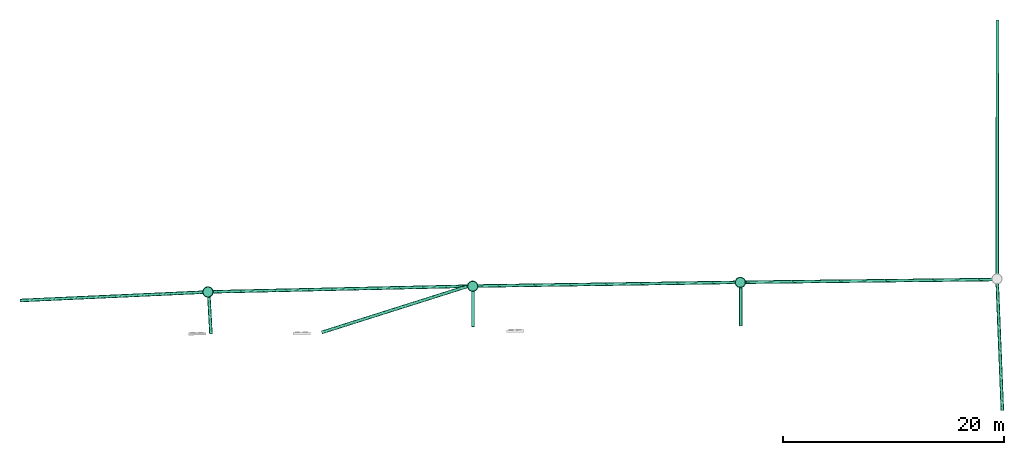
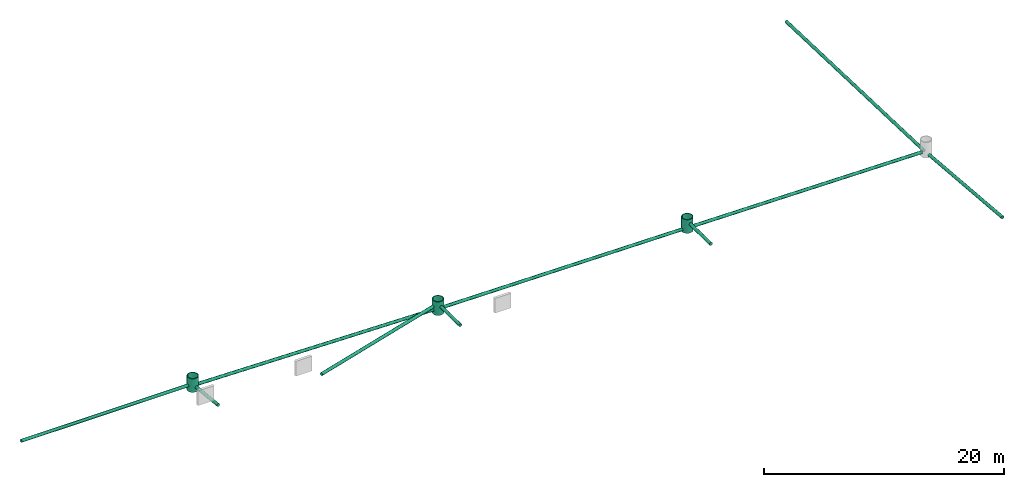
# One storey, part 2 of 3: 13 pipe segments.
"""IFC4 building model written with IfcOpenShell, lengths in metres."""

from ifc_helpers import new_model, entity, si_unit, converted_unit, derived_unit, direction, frame, origin_with_axes, origin_2d_with_axis, place, context, subcontext, project, spatial, circle, extrude, polygons, source, transform, mapped, material, type_object, element, save


model = new_model("IFC4")

# Units and contexts
model_context = context("Model", 3, precision=1e-05, world=origin_with_axes(), true_north=direction((0.0, 1.0)))
body_context = subcontext(model_context, "Body", "Model", "MODEL_VIEW")
ifc_project = project(units=[si_unit("LENGTHUNIT", "METRE"), si_unit("AREAUNIT", "SQUARE_METRE"), si_unit("VOLUMEUNIT", "CUBIC_METRE"), converted_unit("PLANEANGLEUNIT", "DEGREE", entity("IfcPlaneAngleMeasure", 0.0174532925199), si_unit("PLANEANGLEUNIT", "RADIAN"), dimensions=[0, 0, 0, 0, 0, 0, 0]), si_unit("SOLIDANGLEUNIT", "STERADIAN"), converted_unit("TIMEUNIT", "Year", entity("IfcTimeMeasure", 31556926.0), si_unit("TIMEUNIT", "SECOND"), dimensions=[0, 0, 1, 0, 0, 0, 0]), si_unit("MASSUNIT", "GRAM", prefix="KILO"), si_unit("THERMODYNAMICTEMPERATUREUNIT", "DEGREE_CELSIUS"), si_unit("LUMINOUSINTENSITYUNIT", "LUMEN"), si_unit("ENERGYUNIT", "JOULE", prefix="MEGA"), derived_unit("THERMALCONDUCTANCEUNIT", [(si_unit("POWERUNIT", "WATT"), 1), (si_unit("LENGTHUNIT", "METRE"), -1), (si_unit("THERMODYNAMICTEMPERATUREUNIT", "KELVIN"), -1)]), derived_unit("SPECIFICHEATCAPACITYUNIT", [(si_unit("ENERGYUNIT", "JOULE"), 1), (si_unit("MASSUNIT", "GRAM", prefix="KILO"), -1), (si_unit("THERMODYNAMICTEMPERATUREUNIT", "KELVIN"), -1)]), derived_unit("MASSDENSITYUNIT", [(si_unit("MASSUNIT", "GRAM", prefix="KILO"), 1), (si_unit("VOLUMEUNIT", "CUBIC_METRE"), -1)])], contexts=[model_context])

# Site, building, storey
site_placement = place(None, origin_with_axes())
site = spatial("IfcSite", under=ifc_project, at=site_placement, Name="Site", CompositionType="ELEMENT")
building_placement = place(site_placement, origin_with_axes())
building = spatial("IfcBuilding", under=site, at=building_placement, Name="Bâtiment", CompositionType="ELEMENT")
storey_placement = place(building_placement, origin_with_axes())
storey = spatial("IfcBuildingStorey", under=building, at=storey_placement, Name="0. Etage", CompositionType="ELEMENT", Elevation=0.0)

# Pipe segments
ifc_material_1 = material(Name="Volume - Etude")
pipe_segment_type_1 = type_object("IfcPipeSegmentType", Name="Volume - Etude", PredefinedType="NOTDEFINED")
shared_shape = source(origin_with_axes(), body_context, "Body", "Tessellation", [
    polygons([(-0.826759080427, 0.0, -0.321087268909), (-0.876701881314, 0.0, -0.249761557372), (-0.876701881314, 1.37993546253, -0.249761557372), (-0.826759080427, 1.37993546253, -0.321087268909), (-0.913500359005, 0.0, -0.170846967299), (-0.765189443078, 0.0, -0.382656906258), (-0.69386373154, 0.0, -0.432599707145), (-0.614949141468, 0.0, -0.469398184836), (-0.530843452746, 0.0, -0.491934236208), (-0.444102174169, 0.0, -0.499523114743), (-0.357360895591, 0.0, -0.491934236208), (-0.27325520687, 0.0, -0.469398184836), (-0.194340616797, 0.0, -0.432599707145), (-0.12301490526, 0.0, -0.382656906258), (-0.0614452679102, 0.0, -0.321087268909), (-0.0115024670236, 0.0, -0.249761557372), (0.0252960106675, 0.0, -0.170846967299), (0.0478320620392, 0.0, -0.0867412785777), (0.0554209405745, 0.0, 0.0), (0.0478320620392, 0.0, 0.0867412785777), (0.0252960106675, 0.0, 0.170846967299), (-0.0115024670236, 0.0, 0.249761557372), (-0.0614452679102, 0.0, 0.321087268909), (-0.12301490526, 0.0, 0.382656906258), (-0.194340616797, 0.0, 0.432599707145), (-0.27325520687, 0.0, 0.469398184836), (-0.357360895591, 0.0, 0.491934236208), (-0.444102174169, 0.0, 0.499523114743), (-0.530843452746, 0.0, 0.491934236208), (-0.614949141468, 0.0, 0.469398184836), (-0.69386373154, 0.0, 0.432599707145), (-0.765189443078, 0.0, 0.382656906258), (-0.826759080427, 0.0, 0.321087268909), (-0.876701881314, 0.0, 0.249761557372), (-0.913500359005, 0.0, 0.170846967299), (-0.936036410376, 0.0, 0.0867412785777), (-0.943625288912, 0.0, 0.0), (-0.936036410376, 0.0, -0.0867412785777), (-0.913500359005, 1.37993546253, -0.170846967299), (-0.936036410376, 1.37993546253, -0.0867412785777), (-0.943625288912, 1.37993546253, 0.0), (-0.936036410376, 1.37993546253, 0.0867412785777), (-0.913500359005, 1.37993546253, 0.170846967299), (-0.876701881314, 1.37993546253, 0.249761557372), (-0.826759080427, 1.37993546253, 0.321087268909), (-0.765189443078, 1.37993546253, 0.382656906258), (-0.69386373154, 1.37993546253, 0.432599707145), (-0.614949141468, 1.37993546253, 0.469398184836), (-0.530843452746, 1.37993546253, 0.491934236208), (-0.444102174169, 1.37993546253, 0.499523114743), (-0.357360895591, 1.37993546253, 0.491934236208), (-0.27325520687, 1.37993546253, 0.469398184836), (-0.194340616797, 1.37993546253, 0.432599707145), (-0.12301490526, 1.37993546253, 0.382656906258), (-0.0614452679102, 1.37993546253, 0.321087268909), (-0.0115024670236, 1.37993546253, 0.249761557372), (0.0252960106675, 1.37993546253, 0.170846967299), (0.0478320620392, 1.37993546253, 0.0867412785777), (0.0554209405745, 1.37993546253, 0.0), (0.0478320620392, 1.37993546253, -0.0867412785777), (0.0252960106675, 1.37993546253, -0.170846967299), (-0.0115024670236, 1.37993546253, -0.249761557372), (-0.0614452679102, 1.37993546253, -0.321087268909), (-0.12301490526, 1.37993546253, -0.382656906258), (-0.194340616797, 1.37993546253, -0.432599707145), (-0.27325520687, 1.37993546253, -0.469398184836), (-0.357360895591, 1.37993546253, -0.491934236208), (-0.444102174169, 1.37993546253, -0.499523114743), (-0.530843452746, 1.37993546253, -0.491934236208), (-0.614949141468, 1.37993546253, -0.469398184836), (-0.69386373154, 1.37993546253, -0.432599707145), (-0.765189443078, 1.37993546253, -0.382656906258), (-0.880854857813, 1.37993546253, 0.0), (-0.87421960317, 1.37993546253, -0.0758413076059), (-0.854515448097, 1.37993546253, -0.149378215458), (-0.822341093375, 1.37993546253, -0.218376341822), (-0.778674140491, 1.37993546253, -0.280739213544), (-0.724841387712, 1.37993546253, -0.334571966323), (-0.662478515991, 1.37993546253, -0.378238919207), (-0.593480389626, 1.37993546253, -0.410413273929), (-0.519943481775, 1.37993546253, -0.430117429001), (-0.444102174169, 1.37993546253, -0.436752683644), (-0.368260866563, 1.37993546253, -0.430117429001), (-0.294723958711, 1.37993546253, -0.410413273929), (-0.225725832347, 1.37993546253, -0.378238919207), (-0.163362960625, 1.37993546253, -0.334571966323), (-0.109530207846, 1.37993546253, -0.280739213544), (-0.065863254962, 1.37993546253, -0.218376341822), (-0.03368890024, 1.37993546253, -0.149378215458), (-0.0139847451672, 1.37993546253, -0.0758413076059), (-0.00734949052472, 1.37993546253, 0.0), (-0.0139847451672, 1.37993546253, 0.0758413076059), (-0.03368890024, 1.37993546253, 0.149378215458), (-0.065863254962, 1.37993546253, 0.218376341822), (-0.109530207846, 1.37993546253, 0.280739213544), (-0.163362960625, 1.37993546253, 0.334571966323), (-0.225725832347, 1.37993546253, 0.378238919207), (-0.294723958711, 1.37993546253, 0.410413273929), (-0.368260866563, 1.37993546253, 0.430117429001), (-0.444102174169, 1.37993546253, 0.436752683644), (-0.519943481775, 1.37993546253, 0.430117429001), (-0.593480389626, 1.37993546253, 0.410413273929), (-0.662478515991, 1.37993546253, 0.378238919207), (-0.724841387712, 1.37993546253, 0.334571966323), (-0.778674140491, 1.37993546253, 0.280739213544), (-0.822341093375, 1.37993546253, 0.218376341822), (-0.854515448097, 1.37993546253, 0.149378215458), (-0.87421960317, 1.37993546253, 0.0758413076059), (-0.880854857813, 0.0534108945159, 0.0), (-0.87421960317, 0.0534108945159, -0.0758413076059), (-0.854515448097, 0.0534108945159, -0.149378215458), (-0.822341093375, 0.0534108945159, -0.218376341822), (-0.778674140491, 0.0534108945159, -0.280739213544), (-0.724841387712, 0.0534108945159, -0.334571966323), (-0.662478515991, 0.0534108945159, -0.378238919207), (-0.593480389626, 0.0534108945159, -0.410413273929), (-0.519943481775, 0.0534108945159, -0.430117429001), (-0.444102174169, 0.0534108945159, -0.436752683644), (-0.368260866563, 0.0534108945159, -0.430117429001), (-0.294723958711, 0.0534108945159, -0.410413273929), (-0.225725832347, 0.0534108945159, -0.378238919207), (-0.163362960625, 0.0534108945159, -0.334571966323), (-0.109530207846, 0.0534108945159, -0.280739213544), (-0.065863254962, 0.0534108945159, -0.218376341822), (-0.03368890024, 0.0534108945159, -0.149378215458), (-0.0139847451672, 0.0534108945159, -0.0758413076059), (-0.00734949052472, 0.0534108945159, 0.0), (-0.0139847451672, 0.0534108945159, 0.0758413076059), (-0.03368890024, 0.0534108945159, 0.149378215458), (-0.065863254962, 0.0534108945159, 0.218376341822), (-0.109530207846, 0.0534108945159, 0.280739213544), (-0.163362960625, 0.0534108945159, 0.334571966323), (-0.225725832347, 0.0534108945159, 0.378238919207), (-0.294723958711, 0.0534108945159, 0.410413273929), (-0.368260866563, 0.0534108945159, 0.430117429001), (-0.444102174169, 0.0534108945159, 0.436752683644), (-0.519943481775, 0.0534108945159, 0.430117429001), (-0.593480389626, 0.0534108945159, 0.410413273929), (-0.662478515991, 0.0534108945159, 0.378238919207), (-0.724841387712, 0.0534108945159, 0.334571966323), (-0.778674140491, 0.0534108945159, 0.280739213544), (-0.822341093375, 0.0534108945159, 0.218376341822), (-0.854515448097, 0.0534108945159, 0.149378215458), (-0.87421960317, 0.0534108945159, 0.0758413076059)], [[[1, 2, 3, 4]], [[5, 2, 1, 6, 7, 8, 9, 10, 11, 12, 13, 14, 15, 16, 17, 18, 19, 20, 21, 22, 23, 24, 25, 26, 27, 28, 29, 30, 31, 32, 33, 34, 35, 36, 37, 38]], [[2, 5, 39, 3]], [[3, 39, 40, 41, 42, 43, 44, 45, 46, 47, 48, 49, 50, 51, 52, 53, 54, 55, 56, 57, 58, 59, 60, 61, 62, 63, 64, 65, 66, 67, 68, 69, 70, 71, 72, 4], [73, 74, 75, 76, 77, 78, 79, 80, 81, 82, 83, 84, 85, 86, 87, 88, 89, 90, 91, 92, 93, 94, 95, 96, 97, 98, 99, 100, 101, 102, 103, 104, 105, 106, 107, 108]], [[1, 4, 72, 6]], [[6, 72, 71, 7]], [[8, 7, 71, 70]], [[9, 8, 70, 69]], [[10, 9, 69, 68]], [[11, 10, 68, 67]], [[12, 11, 67, 66]], [[13, 12, 66, 65]], [[14, 13, 65, 64]], [[14, 64, 63, 15]], [[15, 63, 62, 16]], [[16, 62, 61, 17]], [[17, 61, 60, 18]], [[19, 18, 60, 59]], [[20, 19, 59, 58]], [[21, 20, 58, 57]], [[22, 21, 57, 56]], [[23, 22, 56, 55]], [[54, 24, 23, 55]], [[24, 54, 53, 25]], [[26, 25, 53, 52]], [[27, 26, 52, 51]], [[28, 27, 51, 50]], [[29, 28, 50, 49]], [[30, 29, 49, 48]], [[31, 30, 48, 47]], [[46, 32, 31, 47]], [[33, 32, 46, 45]], [[34, 33, 45, 44]], [[35, 34, 44, 43]], [[36, 35, 43, 42]], [[37, 36, 42, 41]], [[38, 37, 41, 40]], [[39, 5, 38, 40]], [[109, 110, 74, 73]], [[110, 111, 75, 74]], [[111, 112, 76, 75]], [[112, 113, 77, 76]], [[77, 113, 114, 78]], [[114, 115, 79, 78]], [[115, 116, 80, 79]], [[116, 117, 81, 80]], [[117, 118, 82, 81]], [[118, 119, 83, 82]], [[119, 120, 84, 83]], [[120, 121, 85, 84]], [[121, 122, 86, 85]], [[122, 123, 87, 86]], [[87, 123, 124, 88]], [[124, 125, 89, 88]], [[125, 126, 90, 89]], [[126, 127, 91, 90]], [[127, 128, 92, 91]], [[128, 129, 93, 92]], [[129, 130, 94, 93]], [[131, 95, 94, 130]], [[131, 132, 96, 95]], [[132, 133, 97, 96]], [[133, 134, 98, 97]], [[134, 135, 99, 98]], [[135, 136, 100, 99]], [[136, 137, 101, 100]], [[137, 138, 102, 101]], [[138, 139, 103, 102]], [[139, 140, 104, 103]], [[141, 105, 104, 140]], [[141, 142, 106, 105]], [[142, 143, 107, 106]], [[143, 144, 108, 107]], [[144, 109, 73, 108]], [[113, 112, 111, 110, 109, 144, 143, 142, 141, 140, 139, 138, 137, 136, 135, 134, 133, 132, 131, 130, 129, 128, 127, 126, 125, 124, 123, 122, 121, 120, 119, 118, 117, 116, 115, 114]]], closed=True),
])
for number, where, z_axis, x_axis, name in (
    (1, (-64.5206076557, 3.24241829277, 37.3160188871), (0.0, -1.0, 0.0), (1.0, 0.0, 0.0), "REGARD EU3 N5"),
    (2, (-40.6095022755, 3.76568003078, 36.451700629), (0.0, -1.0, 0.0), (1.0, 0.0, 0.0), "REGARD EU3 N6"),
    (3, (-16.4356176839, 4.10437087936, 36.1381731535), (0.0, -1.0, 0.0), (1.0, 0.0, 0.0), "REGARD EU3 N7"),
):
    element("IfcPipeSegment", number, at=place(storey_placement, frame(where, z_axis=z_axis, x_axis=x_axis)), inside=storey, type_object=pipe_segment_type_1, material=ifc_material_1, Name=name, PredefinedType="NOTDEFINED", context=body_context, shape_type="MappedRepresentation", body=[
        mapped(shared_shape, transform((0.0, 0.0, 0.0))),
    ])
ifc_material_2 = material(Name="Béton armé (Coulé)")
pipe_segment_type_2 = type_object("IfcPipeSegmentType", Name="Béton armé (Coulé) D300", PredefinedType="NOTDEFINED")
pipe_segment_1_placement = place(storey_placement, frame((6.33177069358, 3.97945604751, 35.7401128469), z_axis=(0.0, 0.0, 1.0), x_axis=(-0.999201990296, -0.0399422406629, 0.0)))
element("IfcPipeSegment", 4, at=pipe_segment_1_placement, inside=storey, type_object=pipe_segment_type_2, material=ifc_material_2, Name="CANALISATION EU", PredefinedType="NOTDEFINED", context=body_context, shape_type="SweptSolid", body=[
    extrude(circle(Radius=0.15, at=origin_2d_with_axis()), frame((0.0, 0.0, 0.0), z_axis=(0.0, 0.999390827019, 0.0348994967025), x_axis=(1.0, 0.0, 0.0)), (0.0, 0.0, 1.0), 11.4485402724),
])
pipe_segment_2_placement = place(storey_placement, frame((5.84283087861, 4.3646225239, 35.941887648), z_axis=(0.0, 0.0, 1.0), x_axis=(-0.0107343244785, 0.999942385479, 0.0)))
element("IfcPipeSegment", 5, at=pipe_segment_2_placement, inside=storey, type_object=pipe_segment_type_2, material=ifc_material_2, Name="CANALISATION EU", PredefinedType="NOTDEFINED", context=body_context, shape_type="SweptSolid", body=[
    extrude(circle(Radius=0.15, at=origin_2d_with_axis()), frame((0.0, 0.0, 0.0), z_axis=(0.0, 0.999847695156, 0.0174524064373), x_axis=(1.0, 0.0, 0.0)), (0.0, 0.0, 1.0), 22.2725924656),
])
pipe_segment_3_placement = place(storey_placement, frame((-17.3415255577, 4.110217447, 36.3775491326), z_axis=(0.0, 0.0, 1.0), x_axis=(-0.0140092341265, 0.999901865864, 0.0)))
element("IfcPipeSegment", 6, at=pipe_segment_3_placement, inside=storey, type_object=pipe_segment_type_2, material=ifc_material_2, Name="CANALISATION EU", PredefinedType="NOTDEFINED", context=body_context, shape_type="SweptSolid", body=[
    extrude(circle(Radius=0.15, at=origin_2d_with_axis()), frame((0.0, 0.0, 0.0), z_axis=(0.0, 0.999847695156, 0.0174524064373), x_axis=(1.0, 0.0, 0.0)), (0.0, 0.0, 1.0), 23.2791665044),
])
pipe_segment_4_placement = place(storey_placement, frame((-16.8489502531, 3.60403294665, 37.0116114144), z_axis=(0.0, 0.0, 1.0), x_axis=(-1.0, 0.0, 0.0)))
element("IfcPipeSegment", 7, at=pipe_segment_4_placement, inside=storey, type_object=pipe_segment_type_2, material=ifc_material_2, Name="CANALISATION EU", PredefinedType="NOTDEFINED", context=body_context, shape_type="SweptSolid", body=[
    extrude(circle(Radius=0.15, at=origin_2d_with_axis()), frame((0.0, 0.0, 0.0), z_axis=(0.0, 0.999847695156, 0.0174524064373), x_axis=(1.0, 0.0, 0.0)), (0.0, 0.0, 1.0), 3.41772332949),
])
pipe_segment_5_placement = place(storey_placement, frame((6.34593981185, 27.8049927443, 34.8372707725), z_axis=(0.0, 0.0, 1.0), x_axis=(-0.999999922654, 0.000393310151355, 0.0)))
element("IfcPipeSegment", 8, at=pipe_segment_5_placement, inside=storey, type_object=pipe_segment_type_2, material=ifc_material_2, Name="CANALISATION EU", PredefinedType="NOTDEFINED", context=body_context, shape_type="SweptSolid", body=[
    extrude(circle(Radius=0.15, at=origin_2d_with_axis()), frame((0.0, 0.0, 0.0), z_axis=(0.0, -0.999390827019, -0.0348994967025), x_axis=(-1.0, 0.0, 0.0)), (0.0, 0.0, -1.0), 22.9518526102),
])
pipe_segment_6_placement = place(storey_placement, frame((-41.4927047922, 3.76462554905, 37.1995314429), z_axis=(0.0, 0.0, 1.0), x_axis=(-0.30165411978, 0.953417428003, 0.0)))
element("IfcPipeSegment", 9, at=pipe_segment_6_placement, inside=storey, type_object=pipe_segment_type_2, material=ifc_material_2, Name="CANALISATION EU", PredefinedType="NOTDEFINED", context=body_context, shape_type="SweptSolid", body=[
    extrude(circle(Radius=0.15, at=origin_2d_with_axis()), frame((0.0, 0.0, 0.0), z_axis=(0.0, 0.999847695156, 0.0174524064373), x_axis=(1.0, 0.0, 0.0)), (0.0, 0.0, 1.0), 13.8401274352),
])
pipe_segment_7_placement = place(storey_placement, frame((-41.4832821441, 3.76478261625, 36.8529588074), z_axis=(0.0, 0.0, 1.0), x_axis=(-0.0219183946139, 0.999759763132, 0.0)))
element("IfcPipeSegment", 10, at=pipe_segment_7_placement, inside=storey, type_object=pipe_segment_type_2, material=ifc_material_2, Name="CANALISATION EU", PredefinedType="NOTDEFINED", context=body_context, shape_type="SweptSolid", body=[
    extrude(circle(Radius=0.15, at=origin_2d_with_axis()), frame((0.0, 0.0, 0.0), z_axis=(0.0, 0.999390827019, 0.0348994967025), x_axis=(1.0, 0.0, 0.0)), (0.0, 0.0, 1.0), 23.1210381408),
])
pipe_segment_8_placement = place(storey_placement, frame((-65.3716962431, 3.22367710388, 37.8621712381), z_axis=(0.0, 0.0, 1.0), x_axis=(-0.0451791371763, 0.998978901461, 0.0)))
element("IfcPipeSegment", 11, at=pipe_segment_8_placement, inside=storey, type_object=pipe_segment_type_2, material=ifc_material_2, Name="CANALISATION EU", PredefinedType="NOTDEFINED", context=body_context, shape_type="SweptSolid", body=[
    extrude(circle(Radius=0.15, at=origin_2d_with_axis()), frame((0.0, 0.0, 0.0), z_axis=(0.0, 0.999390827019, 0.0348994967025), x_axis=(1.0, 0.0, 0.0)), (0.0, 0.0, 1.0), 16.589832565),
])
pipe_segment_9_placement = place(storey_placement, frame((-64.8820751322, 2.84722035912, 37.7635055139), z_axis=(0.0, 0.0, 1.0), x_axis=(-0.998472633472, -0.0552485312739, 0.0)))
element("IfcPipeSegment", 12, at=pipe_segment_9_placement, inside=storey, type_object=pipe_segment_type_2, material=ifc_material_2, Name="CANALISATION EU", PredefinedType="NOTDEFINED", context=body_context, shape_type="SweptSolid", body=[
    extrude(circle(Radius=0.15, at=origin_2d_with_axis()), frame((0.0, 0.0, 0.0), z_axis=(0.0, 0.999390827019, 0.0348994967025), x_axis=(1.0, 0.0, 0.0)), (0.0, 0.0, 1.0), 3.40669075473),
])
pipe_segment_10_placement = place(storey_placement, frame((-41.0216592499, 3.32039451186, 37.2681780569), z_axis=(0.0, 0.0, 1.0), x_axis=(-1.0, 0.0, 0.0)))
element("IfcPipeSegment", 13, at=pipe_segment_10_placement, inside=storey, type_object=pipe_segment_type_2, material=ifc_material_2, Name="CANALISATION EU", PredefinedType="NOTDEFINED", context=body_context, shape_type="SweptSolid", body=[
    extrude(circle(Radius=0.15, at=origin_2d_with_axis()), frame((0.0, 0.0, 0.0), z_axis=(0.0, 0.999847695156, 0.0174524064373), x_axis=(1.0, 0.0, 0.0)), (0.0, 0.0, 1.0), 3.21818874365),
])

save(model, "model.ifc")
